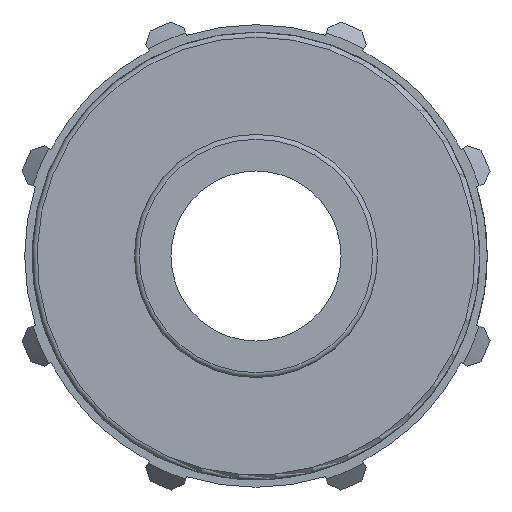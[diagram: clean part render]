
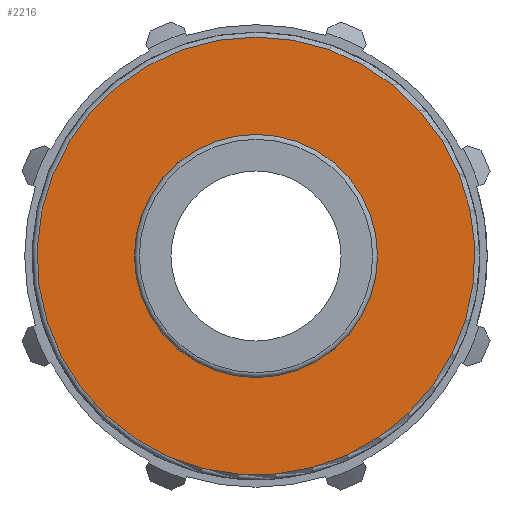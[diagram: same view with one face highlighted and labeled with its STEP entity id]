
A CAD part, left-side view. The second image highlights one B-rep face of the part: STEP entity #2216.
In plain terms, the highlighted planar face has unit normal (-1, 0, 0).
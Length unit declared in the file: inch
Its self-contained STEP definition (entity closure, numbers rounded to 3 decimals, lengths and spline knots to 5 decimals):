
#422=FACE_BOUND('',#639,.T.);
#435=PLANE('',#2401);
#514=FACE_OUTER_BOUND('',#638,.T.);
#638=EDGE_LOOP('',(#1534,#1535));
#639=EDGE_LOOP('',(#1536,#1537));
#746=CIRCLE('',#2341,0.52049);
#747=CIRCLE('',#2342,0.52049);
#784=CIRCLE('',#2399,0.93756);
#785=CIRCLE('',#2400,0.93756);
#863=VERTEX_POINT('',#3209);
#864=VERTEX_POINT('',#3210);
#930=VERTEX_POINT('',#3599);
#931=VERTEX_POINT('',#3601);
#1087=EDGE_CURVE('',#863,#864,#746,.T.);
#1088=EDGE_CURVE('',#864,#863,#747,.T.);
#1175=EDGE_CURVE('',#930,#931,#784,.T.);
#1176=EDGE_CURVE('',#931,#930,#785,.T.);
#1534=ORIENTED_EDGE('',*,*,#1176,.F.);
#1535=ORIENTED_EDGE('',*,*,#1175,.F.);
#1536=ORIENTED_EDGE('',*,*,#1087,.T.);
#1537=ORIENTED_EDGE('',*,*,#1088,.T.);
#2216=ADVANCED_FACE('',(#514,#422),#435,.T.);
#2341=AXIS2_PLACEMENT_3D('',#3211,#2589,#2590);
#2342=AXIS2_PLACEMENT_3D('',#3212,#2591,#2592);
#2399=AXIS2_PLACEMENT_3D('',#3602,#2731,#2732);
#2400=AXIS2_PLACEMENT_3D('',#3603,#2733,#2734);
#2401=AXIS2_PLACEMENT_3D('',#3604,#2735,#2736);
#2589=DIRECTION('center_axis',(1.,0.,0.));
#2590=DIRECTION('ref_axis',(0.,0.,-1.));
#2591=DIRECTION('center_axis',(1.,0.,0.));
#2592=DIRECTION('ref_axis',(0.,0.,-1.));
#2731=DIRECTION('center_axis',(1.,0.,0.));
#2732=DIRECTION('ref_axis',(0.,-0.552,0.834));
#2733=DIRECTION('center_axis',(1.,0.,0.));
#2734=DIRECTION('ref_axis',(0.,-0.552,0.834));
#2735=DIRECTION('center_axis',(-1.,0.,0.));
#2736=DIRECTION('ref_axis',(0.,0.,1.));
#3209=CARTESIAN_POINT('',(0.71,0.52049,0.));
#3210=CARTESIAN_POINT('',(0.71,-0.52049,0.));
#3211=CARTESIAN_POINT('Origin',(0.71,0.,0.));
#3212=CARTESIAN_POINT('Origin',(0.71,0.,0.));
#3599=CARTESIAN_POINT('',(0.71,0.,0.93756));
#3601=CARTESIAN_POINT('',(0.71,0.51727,-0.78195));
#3602=CARTESIAN_POINT('Origin',(0.71,0.,0.));
#3603=CARTESIAN_POINT('Origin',(0.71,0.,0.));
#3604=CARTESIAN_POINT('Origin',(0.71,0.9585,0.));
